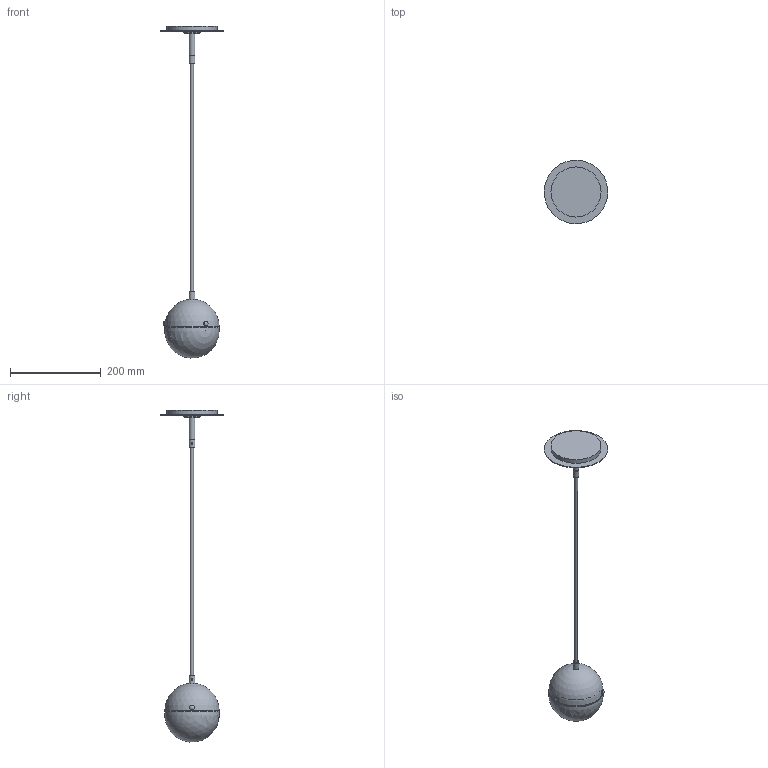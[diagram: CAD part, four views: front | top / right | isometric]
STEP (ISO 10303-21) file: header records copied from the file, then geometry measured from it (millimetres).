
FILE_DESCRIPTION(/* description */ (''),/* implementation_level */ '2;1');
FILE_NAME(/* name */ 'T:\B223 Molecule Single Pendant\Pliki bryłowe handlowe\B223 Molecule Single 3D files_na stronę\B223 Molecule Single.stp',/* time_stamp */ '2022-02-02T15:29:07+01:00',/* author */ ('Mariusz Awariusz'),/* organization */ (''),/* preprocessor_version */ 'ST-DEVELOPER v18.1',/* originating_system */ 'Autodesk Inventor 2022',/* authorisation */ '');
FILE_SCHEMA (('AUTOMOTIVE_DESIGN { 1 0 10303 214 3 1 1 }'));
Length unit declared in the file: millimetre
Products named in the file (1): B223 Molecule Single Pendant CE_v3_na potrzeby plików 3D_2_korpus
y bryłowe
Bounding box: 139.94 x 139.94 x 730.1 mm (x, y, z)
Volume: 226112.9 mm3; surface area: 181903.6 mm2
Topology: 17 solids, 17 shells, 1314 faces, 3826 edges, 2541 vertices
Faces by surface type: plane 989, cylinder 265, bspline 24, cone 16, sphere 10, torus 10
Full cylindrical faces by diameter (mm): 3.242 x3, 4 x5, 6 x3, 7 x1, 10 x4, 13 x3, 34.5 x1, 36 x1, 109 x1, 110 x1, 112 x1, 140 x1
Entity records: 44771 total; most frequent: CARTESIAN_POINT 8867, DIRECTION 7653, ORIENTED_EDGE 7644, EDGE_CURVE 3822, AXIS2_PLACEMENT_3D 2606, VERTEX_POINT 2541, LINE 2441, VECTOR 2441
